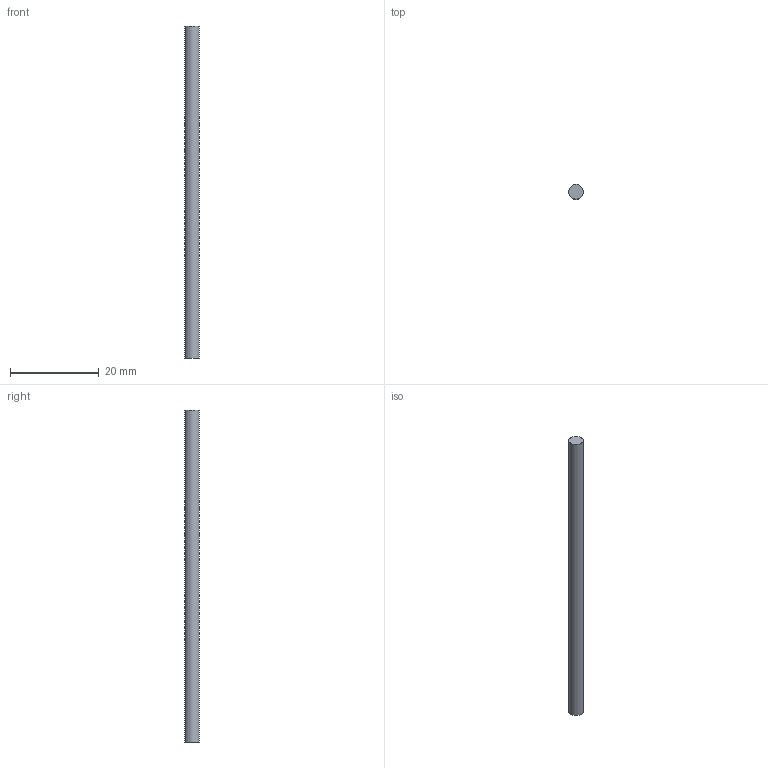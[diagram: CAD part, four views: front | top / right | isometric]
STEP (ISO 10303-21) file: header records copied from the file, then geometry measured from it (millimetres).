
FILE_DESCRIPTION(/* description */ (''),/* implementation_level */ '2;1');
FILE_NAME(/* name */ 'Shaft -3mm.step',/* time_stamp */ '2025-04-22T12:57:03+05:30',/* author */ (''),/* organization */ (''),/* preprocessor_version */ 'ST-DEVELOPER v20.1',/* originating_system */ 'Autodesk Translation Framework v14.4.0.0',/* authorisation */ '');
FILE_SCHEMA (('AUTOMOTIVE_DESIGN { 1 0 10303 214 3 1 1 }'));
Length unit declared in the file: millimetre
Products named in the file (1): Shaft -3mm
Bounding box: 3.3 x 3.3 x 75 mm (x, y, z)
Volume: 641.5 mm3; surface area: 794.7 mm2
Topology: 1 solids, 1 shells, 3 faces, 3 edges, 2 vertices
Faces by surface type: plane 2, cylinder 1
Full cylindrical faces by diameter (mm): 3.3 x1
Entity records: 99 total; most frequent: DIRECTION 13, CARTESIAN_POINT 9, ORIENTED_EDGE 6, AXIS2_PLACEMENT_3D 6, FACE_OUTER_BOUND 3, EDGE_LOOP 3, EDGE_CURVE 3, ADVANCED_FACE 3
